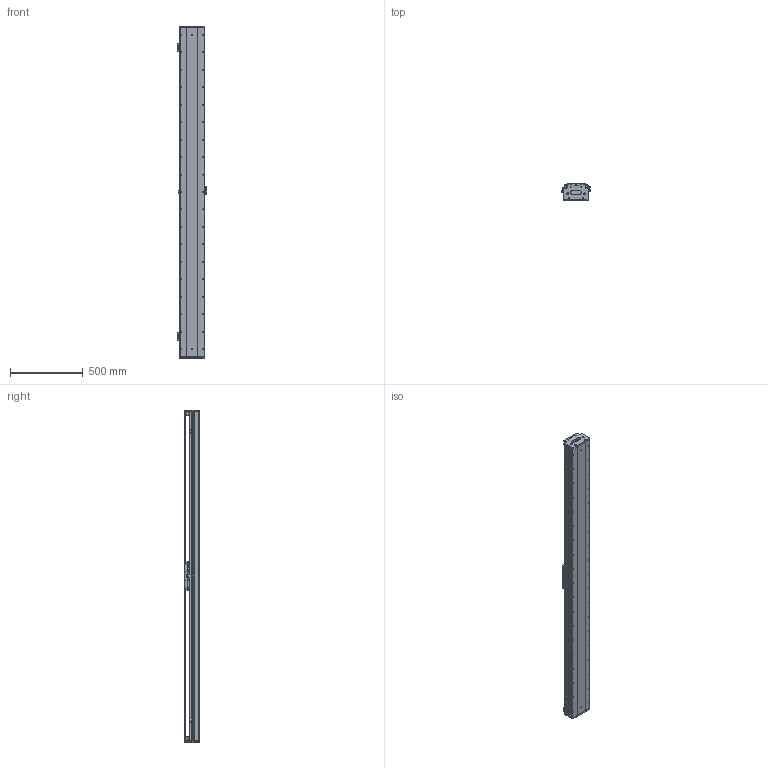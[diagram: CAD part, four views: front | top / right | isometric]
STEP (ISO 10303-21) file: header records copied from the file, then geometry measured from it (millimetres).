
FILE_DESCRIPTION (( 'STEP AP203' ), '1' );
FILE_NAME ('DKW168-C2-W090（T1980-L005-0.2）.STEP', '2021-09-10T01:18:00', ( '微软用户' ), ( '微软中国' ), 'SwSTEP 2.0', 'SolidWorks 2018', '' );
FILE_SCHEMA (( 'CONFIG_CONTROL_DESIGN' ));
Length unit declared in the file: millimetre
Products named in the file (22): DKW168-C2-W090（T1980-L005-0.2）; Ru2; 砎蝶猾沭; RUS嫖掑郪璃; 10392-0001-003-00 詩湍嶺輸; pm-y65; 10392-0001-004-00 詩湍揤輸; 10980-0001-003-00 嫖萇羲壽嘐隅釱; 10279-0001-006-00 嶺輸菜輸; 10392-0001-001-00 菁釱; 嫖萇羲壽蚾饜极; DKW168 单轴模组-拉钢带组件; MSA20絳寢; DKW-SG-GYP-H-00 嫖萇覜茼え; CKM01-W090-TRL280; 10279-0001-003-00 傷啣; 嫖萇羲壽蚾饜极A; DKW168-RU-DTJ-00 RU2黍杅芛盓殤; DKW168-HXJ-00 遣喳砎蝶; C2-W090_00; RUS嫖掑喜; 10392-0001-002-00 詩湍裔啣
Assembly tree (33 placements, depth 3):
  DKW168-C2-W090（T1980-L005-0.2）
    10392-0001-001-00 菁釱
    MSA20絳寢  x2
    DKW168 单轴模组-拉钢带组件
      10279-0001-003-00 傷啣  x2
      DKW168-HXJ-00 遣喳砎蝶  x4
      10392-0001-002-00 詩湍裔啣
      砎蝶猾沭  x2
      10392-0001-003-00 詩湍嶺輸  x2
      10392-0001-004-00 詩湍揤輸  x2
      10279-0001-006-00 嶺輸菜輸  x2
    CKM01-W090-TRL280
    DKW168-RU-DTJ-00 RU2黍杅芛盓殤
    RUS嫖掑郪璃
      RUS嫖掑喜
      Ru2
    嫖萇羲壽蚾饜极
      pm-y65
      10980-0001-003-00 嫖萇羲壽嘐隅釱
    DKW-SG-GYP-H-00 嫖萇覜茼え
    嫖萇羲壽蚾饜极A
      pm-y65  x2
      10980-0001-003-00 嫖萇羲壽嘐隅釱
    C2-W090_00
Bounding box: 202.3 x 109 x 2280 mm (x, y, z)
Volume: 14675703.2 mm3; surface area: 4355098.6 mm2
Topology: 48 solids, 97 shells, 4777 faces, 12515 edges, 8011 vertices
Faces by surface type: plane 2436, cylinder 1572, cone 458, bspline 279, torus 16, sphere 16
Entity records: 144719 total; most frequent: CARTESIAN_POINT 46045, ORIENTED_EDGE 20115, DIRECTION 19163, EDGE_CURVE 10098, VERTEX_POINT 6555, AXIS2_PLACEMENT_3D 6458, VECTOR 6247, LINE 6247
